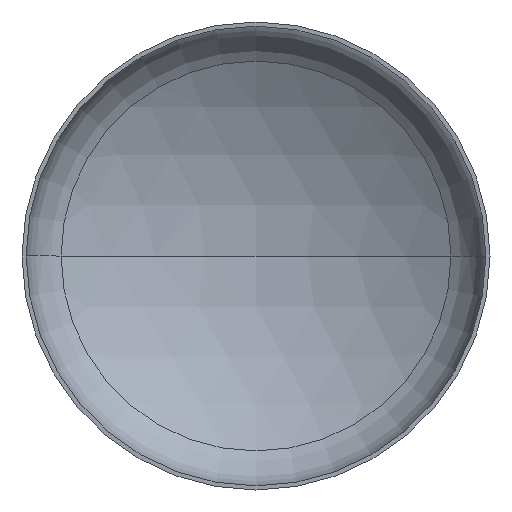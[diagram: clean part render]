
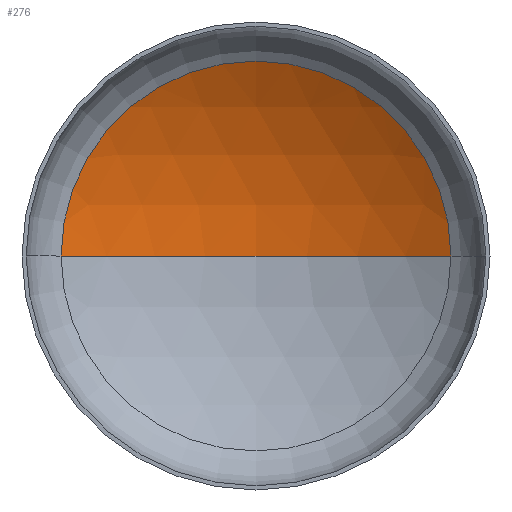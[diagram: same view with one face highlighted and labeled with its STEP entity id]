
A CAD part, front view. The second image highlights one B-rep face of the part: STEP entity #276.
In plain terms, the highlighted spherical face has radius 720 mm.
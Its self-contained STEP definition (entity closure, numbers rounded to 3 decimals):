
#12 = EDGE_LOOP ( 'NONE', ( #43, #38, #134 ) ) ;
#16 = AXIS2_PLACEMENT_3D ( 'NONE', #57, #178, #392 ) ;
#20 = CARTESIAN_POINT ( 'NONE',  ( 0., 249.827, 0. ) ) ;
#35 = CIRCLE ( 'NONE', #49, 720. ) ;
#38 = ORIENTED_EDGE ( 'NONE', *, *, #85, .T. ) ;
#43 = ORIENTED_EDGE ( 'NONE', *, *, #87, .F. ) ;
#47 = AXIS2_PLACEMENT_3D ( 'NONE', #214, #208, #209 ) ;
#49 = AXIS2_PLACEMENT_3D ( 'NONE', #294, #293, #223 ) ;
#51 = AXIS2_PLACEMENT_3D ( 'NONE', #290, #180, #198 ) ;
#54 = VERTEX_POINT ( 'NONE', #241 ) ;
#57 = CARTESIAN_POINT ( 'NONE',  ( 0., -470.173, 0. ) ) ;
#84 = EDGE_CURVE ( 'NONE', #54, #108, #184, .T. ) ;
#85 = EDGE_CURVE ( 'NONE', #131, #54, #35, .T. ) ;
#87 = EDGE_CURVE ( 'NONE', #131, #108, #299, .T. ) ;
#108 = VERTEX_POINT ( 'NONE', #377 ) ;
#131 = VERTEX_POINT ( 'NONE', #20 ) ;
#134 = ORIENTED_EDGE ( 'NONE', *, *, #84, .T. ) ;
#178 = DIRECTION ( 'NONE',  ( 0., 0., -1. ) ) ;
#180 = DIRECTION ( 'NONE',  ( 0., -1., 0. ) ) ;
#184 = CIRCLE ( 'NONE', #51, 374.897 ) ;
#198 = DIRECTION ( 'NONE',  ( 1., 0., 0. ) ) ;
#208 = DIRECTION ( 'NONE',  ( 0., 0., 1. ) ) ;
#209 = DIRECTION ( 'NONE',  ( 1., 0., 0. ) ) ;
#214 = CARTESIAN_POINT ( 'NONE',  ( 0., -470.173, 0. ) ) ;
#223 = DIRECTION ( 'NONE',  ( -1., 0., 0. ) ) ;
#241 = CARTESIAN_POINT ( 'NONE',  ( 374.897, 144.524, 0. ) ) ;
#276 = ADVANCED_FACE ( 'NONE', ( #397 ), #343, .F. ) ;
#290 = CARTESIAN_POINT ( 'NONE',  ( 0., 144.524, 0. ) ) ;
#293 = DIRECTION ( 'NONE',  ( 0., 0., -1. ) ) ;
#294 = CARTESIAN_POINT ( 'NONE',  ( 0., -470.173, 0. ) ) ;
#299 = CIRCLE ( 'NONE', #47, 720. ) ;
#343 = SPHERICAL_SURFACE ( 'NONE', #16, 720. ) ;
#377 = CARTESIAN_POINT ( 'NONE',  ( -374.897, 144.524, 0. ) ) ;
#392 = DIRECTION ( 'NONE',  ( -1., 0., 0. ) ) ;
#397 = FACE_OUTER_BOUND ( 'NONE', #12, .T. ) ;
